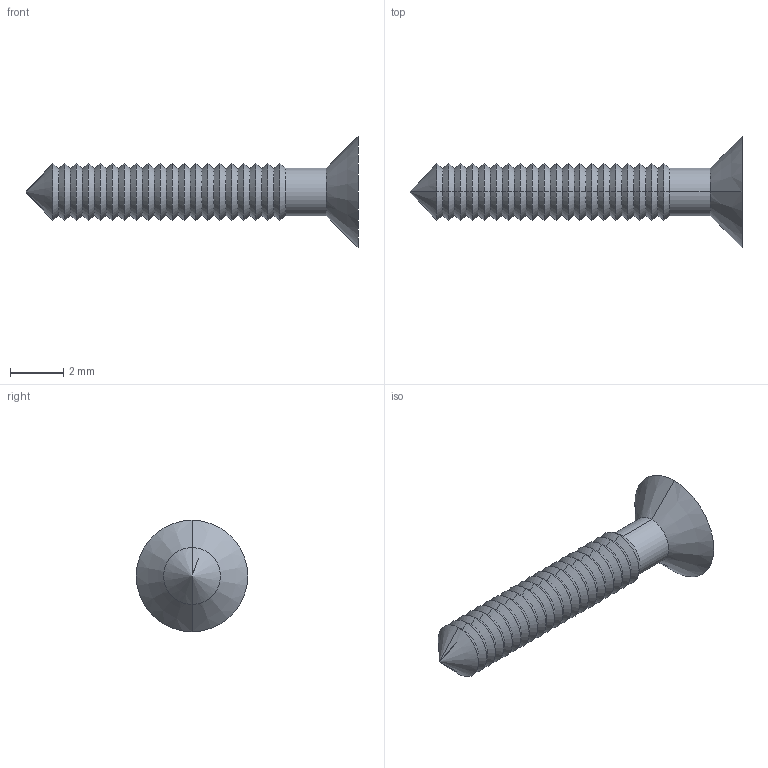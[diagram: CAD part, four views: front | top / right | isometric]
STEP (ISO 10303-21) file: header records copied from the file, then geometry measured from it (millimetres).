
FILE_DESCRIPTION (( 'STEP AP214' ), '1' );
FILE_NAME ('Cargol 2,2x9,3 PP25.STEP', '2019-10-23T12:51:47', ( 'aaa' ), ( '' ), 'SwSTEP 2.0', 'SolidWorks 2014', '' );
FILE_SCHEMA (( 'AUTOMOTIVE_DESIGN' ));
Length unit declared in the file: millimetre
Products named in the file (1): Cargol 2,2x9,3 PP25
Bounding box: 12.5 x 4.2 x 4.2 mm (x, y, z)
Volume: 39.3 mm3; surface area: 118.3 mm2
Topology: 1 solids, 1 shells, 98 faces, 206 edges, 109 vertices
Faces by surface type: cone 82, plane 14, cylinder 2
Entity records: 2558 total; most frequent: DIRECTION 486, CARTESIAN_POINT 412, ORIENTED_EDGE 408, EDGE_CURVE 204, AXIS2_PLACEMENT_3D 183, LINE 120, VECTOR 120, VERTEX_POINT 109
